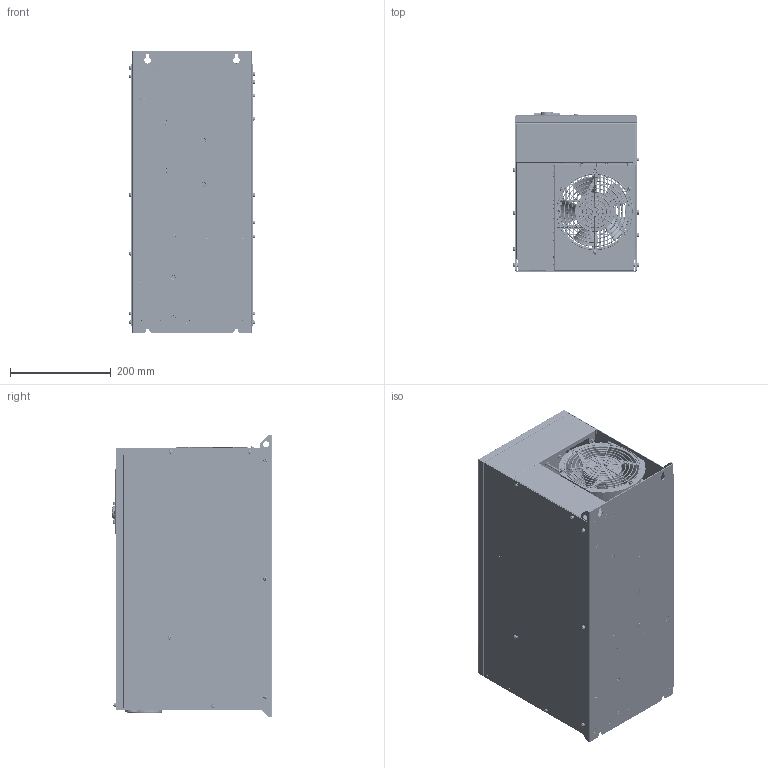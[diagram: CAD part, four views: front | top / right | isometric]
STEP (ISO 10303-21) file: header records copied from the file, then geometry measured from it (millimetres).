
FILE_DESCRIPTION(/* description */ (''),/* implementation_level */ '2;1');
FILE_NAME(/* name */ 'VF302C-B6-3d.step',/* time_stamp */ '2023-03-02T11:25:39+07:00',/* author */ (''),/* organization */ (''),/* preprocessor_version */ 'ST-DEVELOPER v19.2',/* originating_system */ 'Autodesk Translation Framework v11.17.0.187',/* authorisation */ '');
FILE_SCHEMA (('AUTOMOTIVE_DESIGN { 1 0 10303 214 3 1 1 }'));
Products named in the file (37): (Unsaved); VF302C-B6-D_ASM; VF302C-B6-A_ASM; VF302C-B6-P_ASM; P021_ASM; Part282; ASM0001_ASM; VF302C-B6-DS_ASM; M4X60_GB9074_8; M6X16_GB9074_13; M8X25_GB9074_13; M4X35_GB9074_8; M10_GB97_1; M10_GB93_87; M10_GB6170; M4X10_GB819_1; M4X12_GB9074_8; M3X8_GB9074_8; M5X14_GB9074_8; M6X14_GB9074_8; M6X16_GB9074_8; M5X12_GB9074_8; M4X10_GB9074_8; VF302C-B6-A018_ASM; A018P; S-M6-2; VF302C-B6-P026_ASM; P026; SO-3_5M3-6; VEDAVFD; tablichka3_gc_v_a; gc_v_a; display_2; knopka_pusk; knopka_stop; knopka_prg2; knopka_jog_rev
Assembly tree (161 placements, depth 4):
  (Unsaved)
    VF302C-B6-D_ASM
    VF302C-B6-A_ASM
    VF302C-B6-P_ASM
      P021_ASM
        Part282
      ASM0001_ASM
    VF302C-B6-DS_ASM
      M5X12_GB9074_8  x18
      M6X14_GB9074_8  x14
      M4X10_GB9074_8  x42
      M4X60_GB9074_8  x3
      M6X16_GB9074_13  x2
      M8X25_GB9074_13  x8
      M4X35_GB9074_8  x2
      M10_GB97_1  x2
      M10_GB93_87  x2
      M10_GB6170  x2
      M4X10_GB819_1
      M3X8_GB9074_8  x6
      M4X12_GB9074_8  x10
      M5X14_GB9074_8  x9
      M6X16_GB9074_8  x18
    VF302C-B6-A018_ASM
      A018P
      S-M6-2
    VF302C-B6-P026_ASM
      P026
      SO-3_5M3-6  x2
    VEDAVFD
    tablichka3_gc_v_a
      gc_v_a
    display_2
      knopka_pusk
      knopka_stop
      knopka_prg2
      knopka_jog_rev
Bounding box: 249.38 x 317.97 x 558 mm (x, y, z)
Volume: 2566787.9 mm3; surface area: 3004649.5 mm2
Topology: 360 solids, 501 shells, 23930 faces, 61795 edges, 40274 vertices
Faces by surface type: plane 16761, cylinder 3406, bspline 2600, cone 471, torus 439, sphere 253
Full cylindrical faces by diameter (mm): 0.1 x4, 0.5 x8, 0.8 x30, 0.9 x8, 1 x19, 1.08 x1, 1.2 x2, 1.5 x4, 1.6 x2, 1.625 x2, 1.8 x8, 2 x87, 2.2 x12, 2.5 x65, 2.6 x6, 2.65 x12, 3 x21, 3.2 x5, 3.5 x76, 3.6 x29, 3.8 x20, 4 x126, 4.2 x34, 4.39 x4, 4.5 x43, 4.99 x8, 5 x74, 5.38 x29, 5.39 x12, 5.4 x42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
Entity records: 699318 total; most frequent: CARTESIAN_POINT 183881, ORIENTED_EDGE 108288, DIRECTION 97663, EDGE_CURVE 54157, LINE 40547, VECTOR 40547, VERTEX_POINT 35223, AXIS2_PLACEMENT_3D 28558
